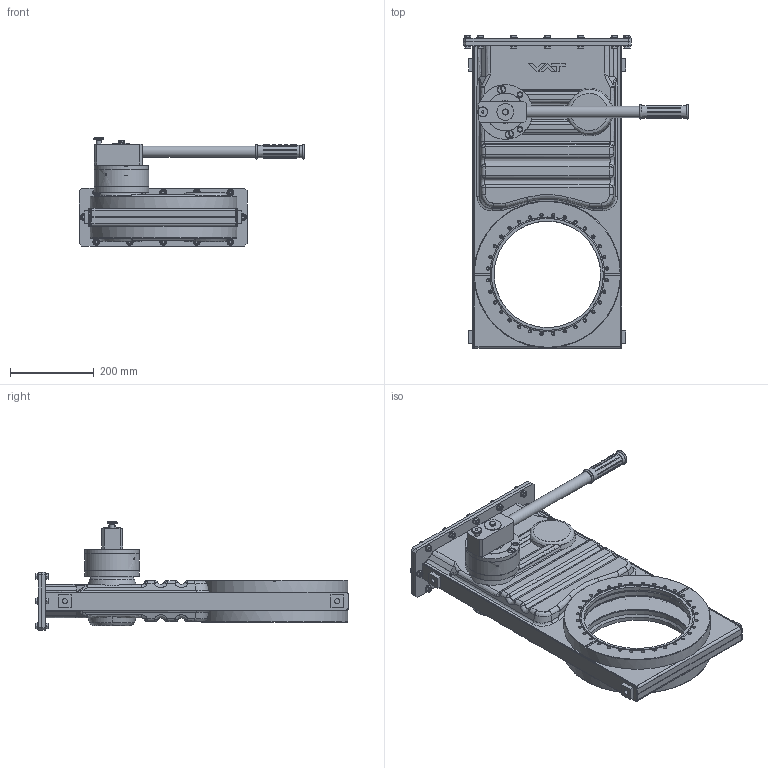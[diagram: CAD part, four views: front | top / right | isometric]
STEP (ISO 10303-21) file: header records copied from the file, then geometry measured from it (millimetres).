
FILE_DESCRIPTION((''),'2;1');
FILE_NAME('O:\MT\MT\Systeme\Cad\Datenexporte\www_vat_ch\236436.stp','2005-08-02T08:01:51',('User'),('SDRC'),'I-DEAS Master Series 9','UNIX','Yes');
FILE_SCHEMA(('CONFIG_CONTROL_DESIGN'));
Length unit declared in the file: millimetre
Assembly tree (79 placements, depth 0):
Bounding box: 537 x 746.4 x 258.27 mm (x, y, z)
Volume: 5917404.3 mm3; surface area: 1954072 mm2
Topology: 106 solids, 106 shells, 1757 faces, 3920 edges, 2458 vertices
Faces by surface type: bspline 1757
Entity records: 47022 total; most frequent: CARTESIAN_POINT 26510, ORIENTED_EDGE 4892, EDGE_CURVE 2446, VERTEX_POINT 1546, EDGE_LOOP 1278, FACE_OUTER_BOUND 1060, ADVANCED_FACE 1060, B_SPLINE_CURVE_WITH_KNOTS 997
